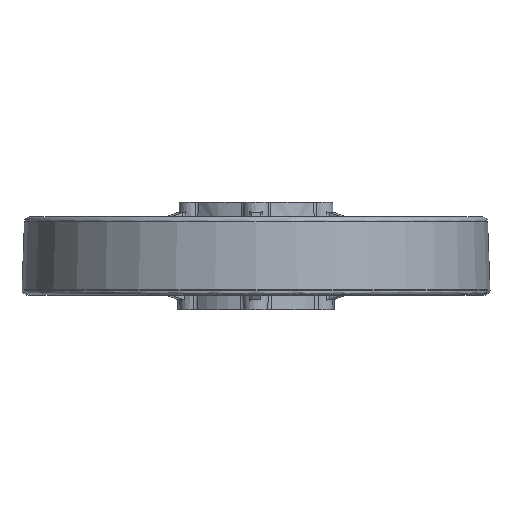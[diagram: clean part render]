
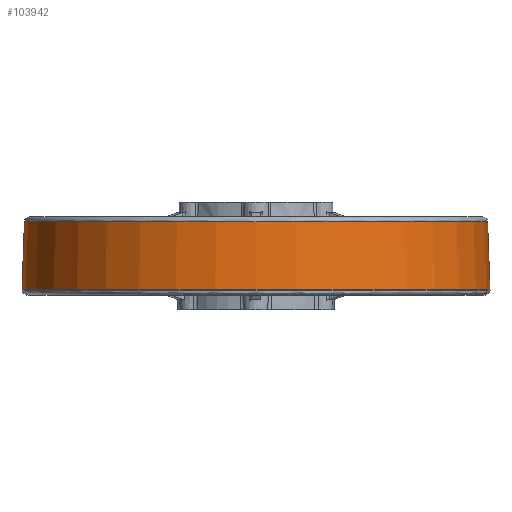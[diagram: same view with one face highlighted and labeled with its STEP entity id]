
A CAD part, left-side view. The second image highlights one B-rep face of the part: STEP entity #103942.
In plain terms, the highlighted conical face has half-angle 2 degrees and reference radius 0.887 mm.
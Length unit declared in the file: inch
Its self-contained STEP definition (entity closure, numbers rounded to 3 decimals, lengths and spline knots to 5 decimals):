
#88528=CARTESIAN_POINT('',(0.,-2.99774,0.06468));
#88529=VERTEX_POINT('',#88528);
#88530=CARTESIAN_POINT('',(0.,-2.96719,0.93968));
#88531=VERTEX_POINT('',#88530);
#88532=CARTESIAN_POINT('',(0.,-2.99774,0.06468));
#88533=DIRECTION('',(0.,0.035,0.999));
#88534=VECTOR('',#88533,0.87553);
#88535=LINE('',#88532,#88534);
#88536=EDGE_CURVE('',#88529,#88531,#88535,.T.);
#88547=CARTESIAN_POINT('',(0.,2.99774,0.06468));
#88548=VERTEX_POINT('',#88547);
#88556=CARTESIAN_POINT('',(0.,2.96719,0.93968));
#88557=VERTEX_POINT('',#88556);
#88558=CARTESIAN_POINT('',(0.,2.99774,0.06468));
#88559=DIRECTION('',(0.,-0.035,0.999));
#88560=VECTOR('',#88559,0.87553);
#88561=LINE('',#88558,#88560);
#88562=EDGE_CURVE('',#88548,#88557,#88561,.T.);
#103910=CARTESIAN_POINT('',(0.,0.,84.90876));
#103911=DIRECTION('',(0.0,0.0,-1.0));
#103912=DIRECTION('',(0.0,1.0,0.0));
#103913=AXIS2_PLACEMENT_3D('',#103910,#103911,#103912);
#103914=CONICAL_SURFACE('',#103913,0.03492,2.);
#103915=ORIENTED_EDGE('',*,*,#88536,.T.);
#103916=CARTESIAN_POINT('',(-2.96719,0.,0.93968));
#103917=VERTEX_POINT('',#103916);
#103918=CARTESIAN_POINT('',(0.,0.,0.93968));
#103919=DIRECTION('',(0.0,0.0,-1.0));
#103920=DIRECTION('',(0.0,1.0,0.0));
#103921=AXIS2_PLACEMENT_3D('',#103918,#103919,#103920);
#103922=CIRCLE('',#103921,2.96719);
#103923=EDGE_CURVE('',#88531,#103917,#103922,.T.);
#103924=ORIENTED_EDGE('',*,*,#103923,.T.);
#103925=CARTESIAN_POINT('',(0.,0.,0.93968));
#103926=DIRECTION('',(0.0,0.0,-1.0));
#103927=DIRECTION('',(0.0,1.0,0.0));
#103928=AXIS2_PLACEMENT_3D('',#103925,#103926,#103927);
#103929=CIRCLE('',#103928,2.96719);
#103930=EDGE_CURVE('',#103917,#88557,#103929,.T.);
#103931=ORIENTED_EDGE('',*,*,#103930,.T.);
#103932=ORIENTED_EDGE('',*,*,#88562,.F.);
#103933=CARTESIAN_POINT('',(0.,0.,0.06468));
#103934=DIRECTION('',(0.0,0.0,1.0));
#103935=DIRECTION('',(0.0,1.0,0.0));
#103936=AXIS2_PLACEMENT_3D('',#103933,#103934,#103935);
#103937=CIRCLE('',#103936,2.99774);
#103938=EDGE_CURVE('',#88548,#88529,#103937,.T.);
#103939=ORIENTED_EDGE('',*,*,#103938,.T.);
#103940=EDGE_LOOP('',(#103915,#103924,#103931,#103932,#103939));
#103941=FACE_OUTER_BOUND('',#103940,.T.);
#103942=ADVANCED_FACE('',(#103941),#103914,.T.);
